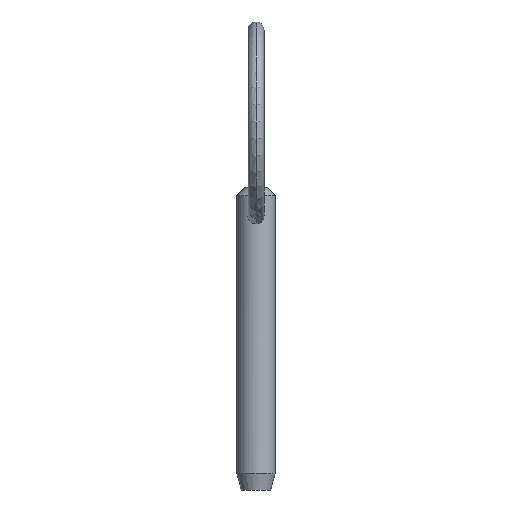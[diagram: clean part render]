
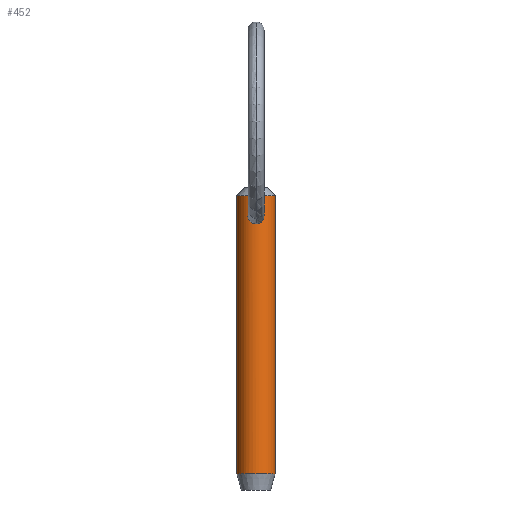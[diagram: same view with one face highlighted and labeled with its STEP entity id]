
A CAD part, front view. The second image highlights one B-rep face of the part: STEP entity #452.
In plain terms, the highlighted cylindrical face has radius 2.38 mm (diameter 4.76 mm), a partial arc.
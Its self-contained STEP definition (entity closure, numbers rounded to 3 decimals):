
#2 = FACE_BOUND ( 'NONE', #246, .T. ) ;
#6 = ORIENTED_EDGE ( 'NONE', *, *, #471, .T. ) ;
#12 = CARTESIAN_POINT ( 'NONE',  ( -0.514, -2.327, 28.249 ) ) ;
#14 = CARTESIAN_POINT ( 'NONE',  ( -1.004, -2.158, 28.999 ) ) ;
#20 = CARTESIAN_POINT ( 'NONE',  ( -0.613, -2.302, 29.946 ) ) ;
#22 = CARTESIAN_POINT ( 'NONE',  ( -0.134, -2.38, 30.168 ) ) ;
#23 = CARTESIAN_POINT ( 'NONE',  ( 0., 0., -3.08 ) ) ;
#32 = CYLINDRICAL_SURFACE ( 'NONE', #404, 2.38 ) ;
#44 = CARTESIAN_POINT ( 'NONE',  ( 0.268, -2.368, 30.137 ) ) ;
#45 = CARTESIAN_POINT ( 'NONE',  ( 0.865, -2.218, 29.64 ) ) ;
#46 = VERTEX_POINT ( 'NONE', #227 ) ;
#56 = CARTESIAN_POINT ( 'NONE',  ( -0.267, -2.368, 30.137 ) ) ;
#60 = CARTESIAN_POINT ( 'NONE',  ( -0.626, -2.298, 28.322 ) ) ;
#61 = DIRECTION ( 'NONE',  ( 0., 0., -1. ) ) ;
#75 = EDGE_CURVE ( 'NONE', #386, #279, #338, .T. ) ;
#78 = CARTESIAN_POINT ( 'NONE',  ( 0.981, -2.169, 28.864 ) ) ;
#80 = CARTESIAN_POINT ( 'NONE',  ( 0.615, -2.301, 29.944 ) ) ;
#82 = CARTESIAN_POINT ( 'NONE',  ( 0.625, -2.299, 28.321 ) ) ;
#87 = CARTESIAN_POINT ( 'NONE',  ( 2.38, 0., 27.9 ) ) ;
#89 = CARTESIAN_POINT ( 'NONE',  ( -2.38, 0., 27.9 ) ) ;
#94 = CARTESIAN_POINT ( 'NONE',  ( -0.991, -2.164, 29.401 ) ) ;
#104 = CARTESIAN_POINT ( 'NONE',  ( 0., -2.38, 28.125 ) ) ;
#111 = VECTOR ( 'NONE', #204, 1000. ) ;
#113 = CARTESIAN_POINT ( 'NONE',  ( 0.513, -2.327, 28.248 ) ) ;
#121 = CARTESIAN_POINT ( 'NONE',  ( 0.508, -2.328, 30.024 ) ) ;
#131 = CARTESIAN_POINT ( 'NONE',  ( -0.982, -2.169, 28.865 ) ) ;
#147 = CARTESIAN_POINT ( 'NONE',  ( 0., -2.38, 28.125 ) ) ;
#148 = EDGE_CURVE ( 'NONE', #406, #46, #317, .T. ) ;
#155 = CARTESIAN_POINT ( 'NONE',  ( 0.268, -2.368, 28.151 ) ) ;
#158 = CARTESIAN_POINT ( 'NONE',  ( 0.966, -2.176, 29.397 ) ) ;
#161 = CARTESIAN_POINT ( 'NONE',  ( 0.134, -2.38, 30.168 ) ) ;
#163 = DIRECTION ( 'NONE',  ( 0., 0., -1. ) ) ;
#164 = CARTESIAN_POINT ( 'NONE',  ( -2.38, 0., -3.08 ) ) ;
#173 = FACE_OUTER_BOUND ( 'NONE', #288, .T. ) ;
#179 = ORIENTED_EDGE ( 'NONE', *, *, #446, .T. ) ;
#181 = DIRECTION ( 'NONE',  ( 0., 0., 1. ) ) ;
#192 = VERTEX_POINT ( 'NONE', #164 ) ;
#201 = CARTESIAN_POINT ( 'NONE',  ( 0., 0., 27.9 ) ) ;
#204 = DIRECTION ( 'NONE',  ( 0., 0., -1. ) ) ;
#205 = DIRECTION ( 'NONE',  ( -1., 0., 0. ) ) ;
#210 = CARTESIAN_POINT ( 'NONE',  ( 0., 0., 31.64 ) ) ;
#227 = CARTESIAN_POINT ( 'NONE',  ( 2.38, 0., -3.08 ) ) ;
#229 = VERTEX_POINT ( 'NONE', #249 ) ;
#237 = CARTESIAN_POINT ( 'NONE',  ( -0.505, -2.329, 30.026 ) ) ;
#246 = EDGE_LOOP ( 'NONE', ( #387, #262 ) ) ;
#249 = CARTESIAN_POINT ( 'NONE',  ( -2.38, 0., 31.64 ) ) ;
#254 = B_SPLINE_CURVE_WITH_KNOTS ( 'NONE', 3,
 ( #147, #443, #360, #12, #60, #319, #457, #131, #14, #94, #276, #20, #237, #56, #22, #361 ),
 .UNSPECIFIED., .F., .F.,
 ( 4, 2, 2, 2, 2, 2, 2, 4 ),
 ( 0.006, 0.006, 0.007, 0.007, 0.007, 0.008, 0.009, 0.009 ),
 .UNSPECIFIED. ) ;
#257 = ORIENTED_EDGE ( 'NONE', *, *, #148, .F. ) ;
#262 = ORIENTED_EDGE ( 'NONE', *, *, #384, .T. ) ;
#265 = EDGE_CURVE ( 'NONE', #192, #46, #418, .T. ) ;
#268 = CARTESIAN_POINT ( 'NONE',  ( 0., -2.38, 30.168 ) ) ;
#269 = LINE ( 'NONE', #89, #301 ) ;
#274 = DIRECTION ( 'NONE',  ( 0., 0., -1. ) ) ;
#276 = CARTESIAN_POINT ( 'NONE',  ( -0.88, -2.219, 29.66 ) ) ;
#279 = VERTEX_POINT ( 'NONE', #104 ) ;
#288 = EDGE_LOOP ( 'NONE', ( #257, #6, #179, #308 ) ) ;
#301 = VECTOR ( 'NONE', #163, 1000. ) ;
#303 = CARTESIAN_POINT ( 'NONE',  ( 0.996, -2.162, 29.264 ) ) ;
#308 = ORIENTED_EDGE ( 'NONE', *, *, #265, .T. ) ;
#309 = CARTESIAN_POINT ( 'NONE',  ( 0.793, -2.246, 29.752 ) ) ;
#317 = LINE ( 'NONE', #87, #111 ) ;
#319 = CARTESIAN_POINT ( 'NONE',  ( -0.811, -2.24, 28.506 ) ) ;
#329 = DIRECTION ( 'NONE',  ( -1., 0., 0. ) ) ;
#330 = AXIS2_PLACEMENT_3D ( 'NONE', #23, #181, #329 ) ;
#338 = B_SPLINE_CURVE_WITH_KNOTS ( 'NONE', 3,
 ( #268, #161, #44, #121, #80, #309, #45, #158, #303, #455, #78, #349, #382, #82, #113, #155, #414, #385 ),
 .UNSPECIFIED., .F., .F.,
 ( 4, 2, 2, 2, 2, 2, 2, 2, 4 ),
 ( 0.003, 0.003, 0.003, 0.004, 0.004, 0.005, 0.005, 0.005, 0.006 ),
 .UNSPECIFIED. ) ;
#349 = CARTESIAN_POINT ( 'NONE',  ( 0.885, -2.21, 28.617 ) ) ;
#360 = CARTESIAN_POINT ( 'NONE',  ( -0.268, -2.368, 28.151 ) ) ;
#361 = CARTESIAN_POINT ( 'NONE',  ( 0., -2.38, 30.168 ) ) ;
#372 = AXIS2_PLACEMENT_3D ( 'NONE', #210, #274, #423 ) ;
#375 = CIRCLE ( 'NONE', #372, 2.38 ) ;
#382 = CARTESIAN_POINT ( 'NONE',  ( 0.811, -2.24, 28.506 ) ) ;
#384 = EDGE_CURVE ( 'NONE', #279, #386, #254, .T. ) ;
#385 = CARTESIAN_POINT ( 'NONE',  ( 0., -2.38, 28.125 ) ) ;
#386 = VERTEX_POINT ( 'NONE', #389 ) ;
#387 = ORIENTED_EDGE ( 'NONE', *, *, #75, .T. ) ;
#389 = CARTESIAN_POINT ( 'NONE',  ( 0., -2.38, 30.168 ) ) ;
#404 = AXIS2_PLACEMENT_3D ( 'NONE', #201, #61, #205 ) ;
#406 = VERTEX_POINT ( 'NONE', #413 ) ;
#413 = CARTESIAN_POINT ( 'NONE',  ( 2.38, 0., 31.64 ) ) ;
#414 = CARTESIAN_POINT ( 'NONE',  ( 0.133, -2.38, 28.125 ) ) ;
#418 = CIRCLE ( 'NONE', #330, 2.38 ) ;
#423 = DIRECTION ( 'NONE',  ( 1., 0., 0. ) ) ;
#443 = CARTESIAN_POINT ( 'NONE',  ( -0.133, -2.38, 28.125 ) ) ;
#446 = EDGE_CURVE ( 'NONE', #229, #192, #269, .T. ) ;
#452 = ADVANCED_FACE ( 'NONE', ( #173, #2 ), #32, .T. ) ;
#455 = CARTESIAN_POINT ( 'NONE',  ( 1.003, -2.158, 28.999 ) ) ;
#457 = CARTESIAN_POINT ( 'NONE',  ( -0.885, -2.21, 28.617 ) ) ;
#471 = EDGE_CURVE ( 'NONE', #406, #229, #375, .T. ) ;
